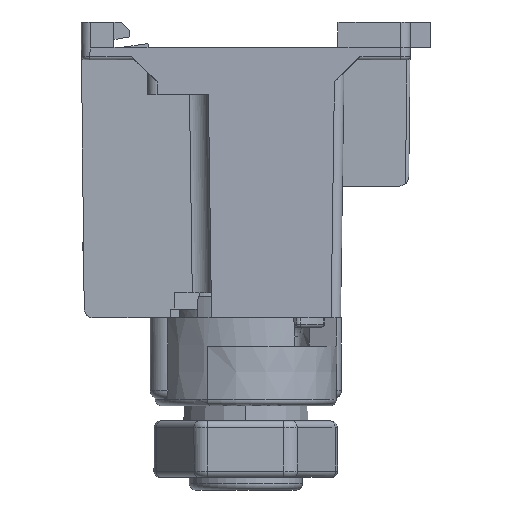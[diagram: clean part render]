
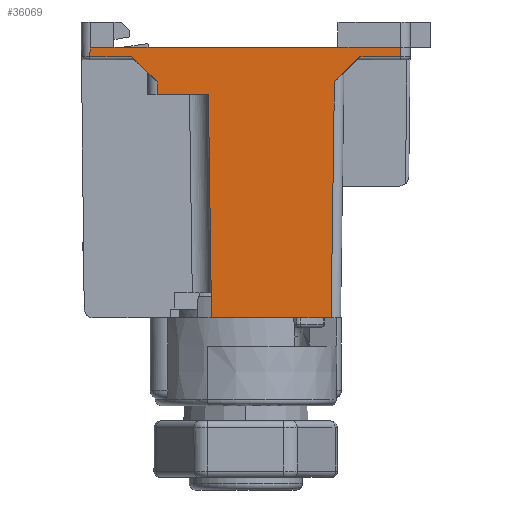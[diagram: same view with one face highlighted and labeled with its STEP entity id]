
A CAD part, front view. The second image highlights one B-rep face of the part: STEP entity #36069.
In plain terms, the highlighted planar face has unit normal (0, -1, -0.011).
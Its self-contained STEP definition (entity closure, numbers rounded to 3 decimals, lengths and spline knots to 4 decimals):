
#4458=DIRECTION('',(1.,0.,0.));
#4459=VECTOR('',#4458,0.7501);
#4460=CARTESIAN_POINT('',(0.8179,0.0181,
-1.8563));
#4461=LINE('',#4460,#4459);
#4525=DIRECTION('',(0.014,0.011,-1.));
#4526=VECTOR('',#4525,1.4009);
#4527=CARTESIAN_POINT('',(0.7983,0.0032,
-0.4557));
#4528=LINE('',#4527,#4526);
#4549=DIRECTION('',(1.,0.,0.));
#4550=VECTOR('',#4549,0.3205);
#4551=CARTESIAN_POINT('',(0.4778,0.0032,
-0.4557));
#4552=LINE('',#4551,#4550);
#4599=DIRECTION('',(0.712,0.007,-0.702));
#4600=VECTOR('',#4599,0.2251);
#4601=CARTESIAN_POINT('',(0.3165,0.0006,
-0.2185));
#4602=LINE('',#4601,#4600);
#4624=DIRECTION('',(1.,0.,0.));
#4625=VECTOR('',#4624,0.2634);
#4626=CARTESIAN_POINT('',(0.053,0.0006,
-0.2184));
#4627=LINE('',#4626,#4625);
#4668=CARTESIAN_POINT('',(0.061,0.,
-0.1589));
#4669=CARTESIAN_POINT('',(0.0609,0.,
-0.1589));
#4670=CARTESIAN_POINT('',(0.0606,0.,
-0.159));
#4671=CARTESIAN_POINT('',(0.0602,0.,
-0.1594));
#4672=CARTESIAN_POINT('',(0.0599,0.,
-0.1599));
#4673=CARTESIAN_POINT('',(0.0596,0.,
-0.1605));
#4674=CARTESIAN_POINT('',(0.0594,0.,
-0.1611));
#4675=CARTESIAN_POINT('',(0.0591,0.,
-0.1619));
#4676=CARTESIAN_POINT('',(0.0589,0.,
-0.1626));
#4677=CARTESIAN_POINT('',(0.0587,0.0001,
-0.1635));
#4678=CARTESIAN_POINT('',(0.0584,0.0001,
-0.1645));
#4679=CARTESIAN_POINT('',(0.0582,0.0001,
-0.1655));
#4680=CARTESIAN_POINT('',(0.058,0.0001,
-0.1666));
#4681=CARTESIAN_POINT('',(0.0578,0.0001,
-0.1679));
#4682=CARTESIAN_POINT('',(0.0575,0.0001,
-0.1692));
#4683=CARTESIAN_POINT('',(0.0573,0.0001,
-0.1706));
#4684=CARTESIAN_POINT('',(0.0571,0.0001,
-0.1722));
#4685=CARTESIAN_POINT('',(0.0568,0.0002,
-0.1739));
#4686=CARTESIAN_POINT('',(0.0566,0.0002,
-0.1757));
#4687=CARTESIAN_POINT('',(0.0564,0.0002,
-0.1777));
#4688=CARTESIAN_POINT('',(0.0561,0.0002,
-0.1798));
#4689=CARTESIAN_POINT('',(0.0559,0.0002,
-0.1821));
#4690=CARTESIAN_POINT('',(0.0556,0.0003,
-0.1846));
#4691=CARTESIAN_POINT('',(0.0554,0.0003,
-0.1873));
#4692=CARTESIAN_POINT('',(0.0551,0.0003,
-0.1902));
#4693=CARTESIAN_POINT('',(0.0548,0.0004,
-0.1934));
#4694=CARTESIAN_POINT('',(0.0545,0.0004,
-0.1968));
#4695=CARTESIAN_POINT('',(0.0542,0.0004,
-0.2005));
#4696=CARTESIAN_POINT('',(0.0539,0.0005,
-0.2044));
#4697=CARTESIAN_POINT('',(0.0536,0.0005,
-0.2087));
#4698=CARTESIAN_POINT('',(0.0533,0.0006,
-0.2133));
#4699=CARTESIAN_POINT('',(0.0531,0.0006,
-0.2167));
#4700=CARTESIAN_POINT('',(0.053,0.0006,
-0.2184));
#5107=DIRECTION('',(-0.014,0.011,-1.));
#5108=VECTOR('',#5107,1.48);
#5109=CARTESIAN_POINT('',(1.5887,0.0023,
-0.3765));
#5110=LINE('',#5109,#5108);
#5111=DIRECTION('',(-0.014,-0.011,1.));
#5112=VECTOR('',#5111,0.0792);
#5113=CARTESIAN_POINT('',(0.4778,0.0032,
-0.4557));
#5114=LINE('',#5113,#5112);
#5115=DIRECTION('',(-0.011,0.011,-1.));
#5116=VECTOR('',#5115,0.0596);
#5117=CARTESIAN_POINT('',(2.0044,0.,
-0.1589));
#5118=LINE('',#5117,#5116);
#5119=DIRECTION('',(1.,0.,0.));
#5120=VECTOR('',#5119,0.2548);
#5121=CARTESIAN_POINT('',(1.7489,0.0006,
-0.2185));
#5122=LINE('',#5121,#5120);
#5359=DIRECTION('',(-1.,0.,0.));
#5360=VECTOR('',#5359,0.394);
#5361=CARTESIAN_POINT('',(2.0044,0.,
-0.1589));
#5362=LINE('',#5361,#5360);
#5371=DIRECTION('',(-1.,0.,0.));
#5372=VECTOR('',#5371,0.0554);
#5373=CARTESIAN_POINT('',(0.2611,0.,
-0.1589));
#5374=LINE('',#5373,#5372);
#5375=DIRECTION('',(-1.,0.,0.));
#5376=VECTOR('',#5375,1.191);
#5377=CARTESIAN_POINT('',(1.6104,0.,
-0.1589));
#5378=LINE('',#5377,#5376);
#10196=DIRECTION('',(0.712,-0.007,0.702));
#10197=VECTOR('',#10196,0.2251);
#10198=CARTESIAN_POINT('',(1.5887,0.0023,
-0.3765));
#10199=LINE('',#10198,#10197);
#13835=DIRECTION('',(-1.,0.,0.));
#13836=VECTOR('',#13835,0.1447);
#13837=CARTESIAN_POINT('',(0.2057,0.,
-0.1589));
#13838=LINE('',#13837,#13836);
#13860=DIRECTION('',(-1.,0.,0.));
#13861=VECTOR('',#13860,0.1583);
#13862=CARTESIAN_POINT('',(0.4194,0.,
-0.1589));
#13863=LINE('',#13862,#13861);
#18171=CARTESIAN_POINT('',(2.0037,0.0006,
-0.2185));
#18172=VERTEX_POINT('',#18171);
#18173=CARTESIAN_POINT('',(1.7489,0.0006,
-0.2185));
#18174=VERTEX_POINT('',#18173);
#18175=CARTESIAN_POINT('',(1.5887,0.0023,
-0.3765));
#18176=CARTESIAN_POINT('',(1.568,0.0181,
-1.8563));
#18177=VERTEX_POINT('',#18175);
#18178=VERTEX_POINT('',#18176);
#18179=CARTESIAN_POINT('',(0.7983,0.0032,
-0.4557));
#18180=CARTESIAN_POINT('',(0.8179,0.0181,
-1.8563));
#18181=VERTEX_POINT('',#18179);
#18182=VERTEX_POINT('',#18180);
#18183=CARTESIAN_POINT('',(0.4778,0.0032,
-0.4557));
#18184=CARTESIAN_POINT('',(0.4767,0.0023,
-0.3765));
#18185=VERTEX_POINT('',#18183);
#18186=VERTEX_POINT('',#18184);
#18187=CARTESIAN_POINT('',(0.053,0.0006,
-0.2184));
#18188=CARTESIAN_POINT('',(0.3165,0.0006,
-0.2185));
#18189=VERTEX_POINT('',#18187);
#18190=VERTEX_POINT('',#18188);
#18191=VERTEX_POINT('',#4668);
#18192=CARTESIAN_POINT('',(0.2057,0.,
-0.1589));
#18193=VERTEX_POINT('',#18192);
#18194=CARTESIAN_POINT('',(0.2611,0.,
-0.1589));
#18195=VERTEX_POINT('',#18194);
#18196=CARTESIAN_POINT('',(0.4194,0.,
-0.1589));
#18197=VERTEX_POINT('',#18196);
#18198=CARTESIAN_POINT('',(1.6104,0.,
-0.1589));
#18199=VERTEX_POINT('',#18198);
#18200=CARTESIAN_POINT('',(2.0044,0.,
-0.1589));
#18201=VERTEX_POINT('',#18200);
#36038=CARTESIAN_POINT('',(1.0287,0.009,
-1.0076));
#36039=DIRECTION('',(0.,1.,0.011));
#36040=DIRECTION('',(0.,-0.011,1.));
#36041=AXIS2_PLACEMENT_3D('',#36038,#36039,#36040);
#36042=PLANE('',#36041);
#36044=ORIENTED_EDGE('',*,*,#36043,.F.);
#36046=ORIENTED_EDGE('',*,*,#36045,.F.);
#36047=ORIENTED_EDGE('',*,*,#36031,.T.);
#36048=ORIENTED_EDGE('',*,*,#35221,.F.);
#36049=ORIENTED_EDGE('',*,*,#35270,.F.);
#36050=ORIENTED_EDGE('',*,*,#35312,.F.);
#36051=ORIENTED_EDGE('',*,*,#35347,.T.);
#36052=ORIENTED_EDGE('',*,*,#35361,.F.);
#36053=ORIENTED_EDGE('',*,*,#35399,.F.);
#36054=ORIENTED_EDGE('',*,*,#35442,.F.);
#36056=ORIENTED_EDGE('',*,*,#36055,.F.);
#36058=ORIENTED_EDGE('',*,*,#36057,.F.);
#36060=ORIENTED_EDGE('',*,*,#36059,.F.);
#36062=ORIENTED_EDGE('',*,*,#36061,.F.);
#36064=ORIENTED_EDGE('',*,*,#36063,.F.);
#36066=ORIENTED_EDGE('',*,*,#36065,.T.);
#36067=EDGE_LOOP('',(#36044,#36046,#36047,#36048,#36049,#36050,#36051,#36052,
#36053,#36054,#36056,#36058,#36060,#36062,#36064,#36066));
#36068=FACE_OUTER_BOUND('',#36067,.F.);
#36069=ADVANCED_FACE('',(#36068),#36042,.F.);
#4701=B_SPLINE_CURVE_WITH_KNOTS('',3,(#4668,#4669,#4670,#4671,#4672,#4673,#4674,
#4675,#4676,#4677,#4678,#4679,#4680,#4681,#4682,#4683,#4684,#4685,#4686,#4687,
#4688,#4689,#4690,#4691,#4692,#4693,#4694,#4695,#4696,#4697,#4698,#4699,#4700),
.UNSPECIFIED.,.F.,.F.,(4,1,1,1,1,1,1,1,1,1,1,1,1,1,1,1,1,1,1,1,1,1,1,1,1,1,1,1,
1,1,4),(0.,0.0333,0.0667,0.1,0.1333,
0.1667,0.2,0.2333,0.2667,0.3,
0.3333,0.3667,0.4,0.4333,0.4667,
0.5,0.5333,0.5667,0.6,0.6333,
0.6667,0.7,0.7333,0.7667,0.8,
0.8333,0.8667,0.9,0.9333,0.9667,
1.),.UNSPECIFIED.);
#35221=EDGE_CURVE('',#18182,#18178,#4461,.T.);
#35270=EDGE_CURVE('',#18181,#18182,#4528,.T.);
#35312=EDGE_CURVE('',#18185,#18181,#4552,.T.);
#35347=EDGE_CURVE('',#18185,#18186,#5114,.T.);
#35361=EDGE_CURVE('',#18190,#18186,#4602,.T.);
#35399=EDGE_CURVE('',#18189,#18190,#4627,.T.);
#35442=EDGE_CURVE('',#18191,#18189,#4701,.T.);
#36031=EDGE_CURVE('',#18177,#18178,#5110,.T.);
#36043=EDGE_CURVE('',#18174,#18172,#5122,.T.);
#36045=EDGE_CURVE('',#18177,#18174,#10199,.T.);
#36055=EDGE_CURVE('',#18193,#18191,#13838,.T.);
#36057=EDGE_CURVE('',#18195,#18193,#5374,.T.);
#36059=EDGE_CURVE('',#18197,#18195,#13863,.T.);
#36061=EDGE_CURVE('',#18199,#18197,#5378,.T.);
#36063=EDGE_CURVE('',#18201,#18199,#5362,.T.);
#36065=EDGE_CURVE('',#18201,#18172,#5118,.T.);
